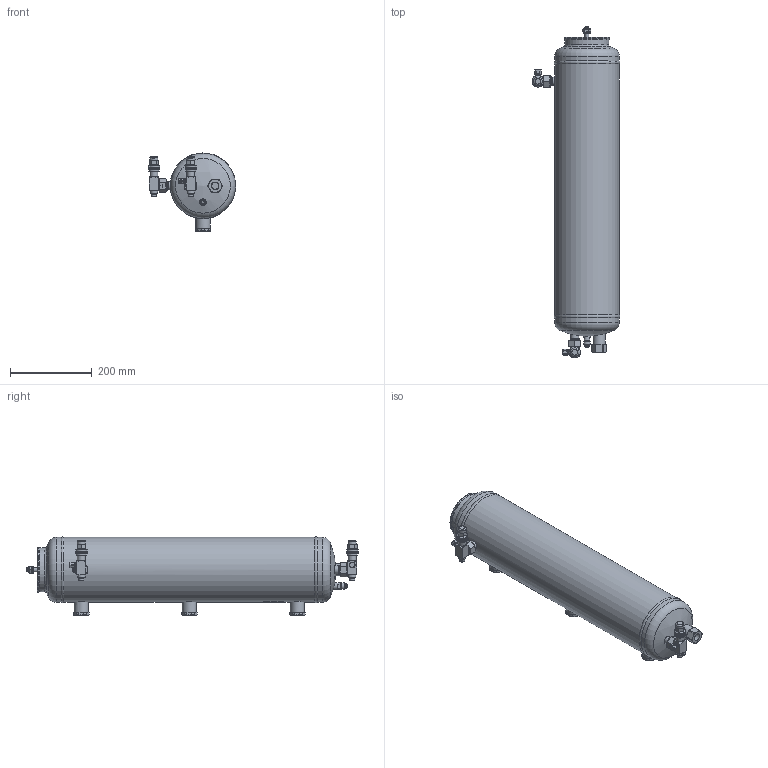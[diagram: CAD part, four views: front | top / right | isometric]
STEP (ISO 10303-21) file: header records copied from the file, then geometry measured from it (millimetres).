
FILE_DESCRIPTION(/* description */ (''),/* implementation_level */ '2;1');
FILE_NAME(/* name */ 'P:\OSA\OSA-12-CDM\OSA-12-CDM.stp',/* time_stamp */ '2017-03-17T12:15:56+01:00',/* author */ ('Goerner'),/* organization */ (''),/* preprocessor_version */ 'ST-DEVELOPER v16.1',/* originating_system */ 'Autodesk Inventor 2016',/* authorisation */ '');
FILE_SCHEMA (('AUTOMOTIVE_DESIGN { 1 0 10303 214 3 1 1 }'));
Length unit declared in the file: millimetre
Products named in the file (3): OSA-12-CDM_AG-Kunde; RAV-1-10-CDM_AG-Kunde; OSA-12-CDM_AG-Kunde_1
Assembly tree (3 placements, depth 2):
  OSA-12-CDM_AG-Kunde_1
    OSA-12-CDM_AG-Kunde
    RAV-1-10-CDM_AG-Kunde  x2
Bounding box: 214.88 x 814.57 x 191.58 mm (x, y, z)
Volume: 14158729.2 mm3; surface area: 454080.9 mm2
Topology: 4 solids, 12 shells, 1863 faces, 4906 edges, 3220 vertices
Faces by surface type: plane 981, bspline 378, cylinder 314, cone 159, torus 25, sphere 6
Full cylindrical faces by diameter (mm): 4 x2, 6.5 x2, 7.2 x1, 8.1 x1, 9 x2, 9.4 x2, 10 x2, 10.1 x2, 10.2 x2, 10.72 x2, 11 x2, 12.9 x1, 13 x2, 13.3 x2, 13.5 x3, 14 x2, 14.2 x2, 15.7 x1, 15.75 x2, 15.87 x2, 16 x1, 16.7 x2, 16.8 x2, 17.3 x2, 18 x2, 18.3 x2, 19 x2, 19.05 x2, 19.9 x2, 20 x6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
Entity records: 55887 total; most frequent: CARTESIAN_POINT 19474, ORIENTED_EDGE 7894, DIRECTION 6591, EDGE_CURVE 3947, VERTEX_POINT 2663, AXIS2_PLACEMENT_3D 2409, EDGE_LOOP 1818, LINE 1773
